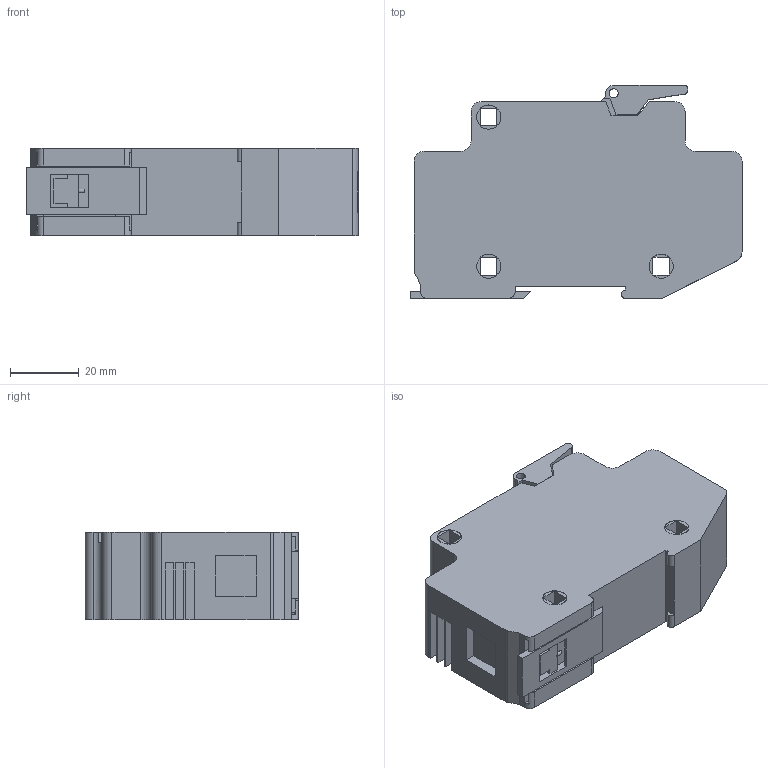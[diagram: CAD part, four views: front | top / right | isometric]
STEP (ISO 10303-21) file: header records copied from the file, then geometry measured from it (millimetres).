
FILE_DESCRIPTION (( 'STEP AP203' ), '1' );
FILE_NAME ('聆彸釱.STEP', '2024-08-22T02:10:25', ( '' ), ( '' ), 'SwSTEP 2.0', 'SolidWorks 2021', '' );
FILE_SCHEMA (( 'CONFIG_CONTROL_DESIGN' ));
Length unit declared in the file: millimetre
Products named in the file (3): 芢啣; 價釱; 聆彸釱
Assembly tree (2 placements, depth 2):
  聆彸釱
    價釱
    芢啣
Bounding box: 96.26 x 61.84 x 25.4 mm (x, y, z)
Volume: 117782.1 mm3; surface area: 22506.4 mm2
Topology: 2 solids, 2 shells, 179 faces, 464 edges, 291 vertices
Faces by surface type: plane 141, cylinder 38
Entity records: 5714 total; most frequent: DIRECTION 939, CARTESIAN_POINT 939, ORIENTED_EDGE 928, EDGE_CURVE 464, VECTOR 357, LINE 357, AXIS2_PLACEMENT_3D 291, VERTEX_POINT 291
